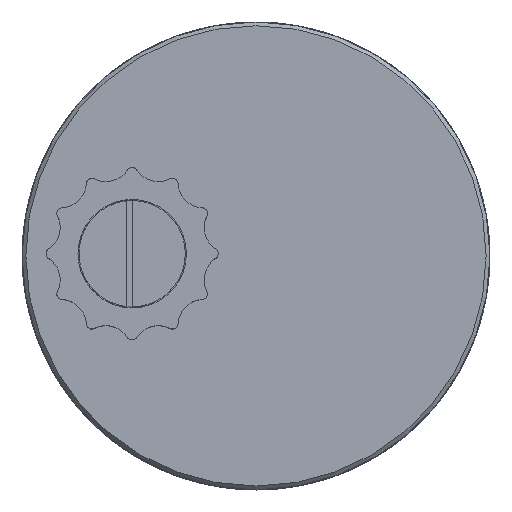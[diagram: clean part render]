
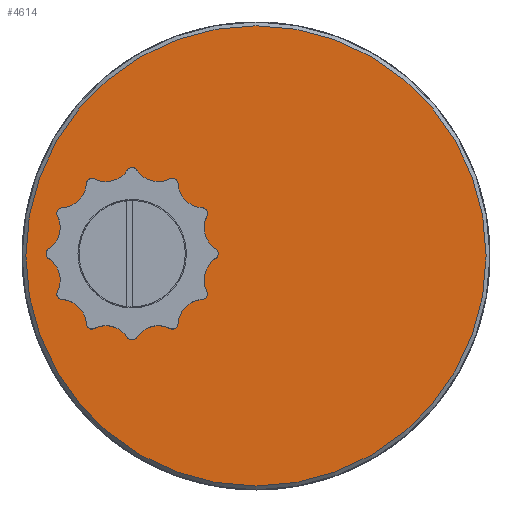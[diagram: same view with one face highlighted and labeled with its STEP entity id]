
A CAD part, top view. The second image highlights one B-rep face of the part: STEP entity #4614.
In plain terms, the highlighted planar face has unit normal (0, 0, 1).
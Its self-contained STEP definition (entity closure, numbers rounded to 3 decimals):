
#415=CIRCLE('',#11324,21.646);
#1476=VERTEX_POINT('',#5947);
#1906=EDGE_CURVE('',#1476,#1476,#415,.T.);
#2511=ORIENTED_EDGE('',*,*,#1906,.T.);
#3592=EDGE_LOOP('',(#2511));
#4088=FACE_BOUND('',#3592,.T.);
#4563=PLANE('',#11323);
#4614=ADVANCED_FACE('',(#4088),#4563,.T.);
#5946=CARTESIAN_POINT('',(13.67,15.844,67.222));
#5947=CARTESIAN_POINT('',(35.316,15.844,67.222));
#5948=CARTESIAN_POINT('',(13.67,15.844,67.222));
#10167=DIRECTION('',(0.,0.,1.));
#10168=DIRECTION('',(1.,0.,0.));
#10169=DIRECTION('',(0.,0.,1.));
#10170=DIRECTION('',(1.,0.,0.));
#11323=AXIS2_PLACEMENT_3D('',#5946,#10167,#10168);
#11324=AXIS2_PLACEMENT_3D('',#5948,#10169,#10170);
